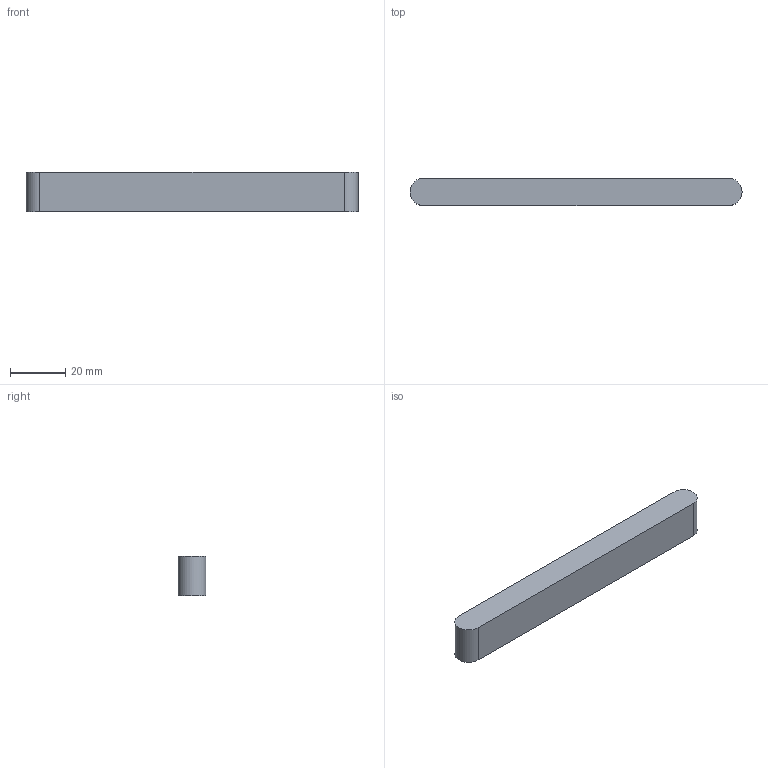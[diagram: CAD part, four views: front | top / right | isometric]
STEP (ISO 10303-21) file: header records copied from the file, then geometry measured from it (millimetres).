
FILE_DESCRIPTION(('Open CASCADE Model'),'2;1');
FILE_NAME('Open CASCADE Shape Model','2026-10-21T18:54:03',('Author'),( 'Open CASCADE'),'Open CASCADE STEP processor 8.0','build123d', 'Unknown');
FILE_SCHEMA(('AUTOMOTIVE_DESIGN { 1 0 10303 214 1 1 1 1 }'));
Length unit declared in the file: millimetre
Products named in the file (1): COMPOUND
Bounding box: 119.85 x 10 x 14.3 mm (x, y, z)
Volume: 16831.7 mm3; surface area: 5945 mm2
Topology: 1 solids, 1 shells, 6 faces, 12 edges, 8 vertices
Faces by surface type: plane 4, cylinder 2
Entity records: 338 total; most frequent: CARTESIAN_POINT 75, DIRECTION 50, LINE 28, VECTOR 28, ORIENTED_EDGE 24, PCURVE 24, DEFINITIONAL_REPRESENTATION 24, EDGE_CURVE 12
